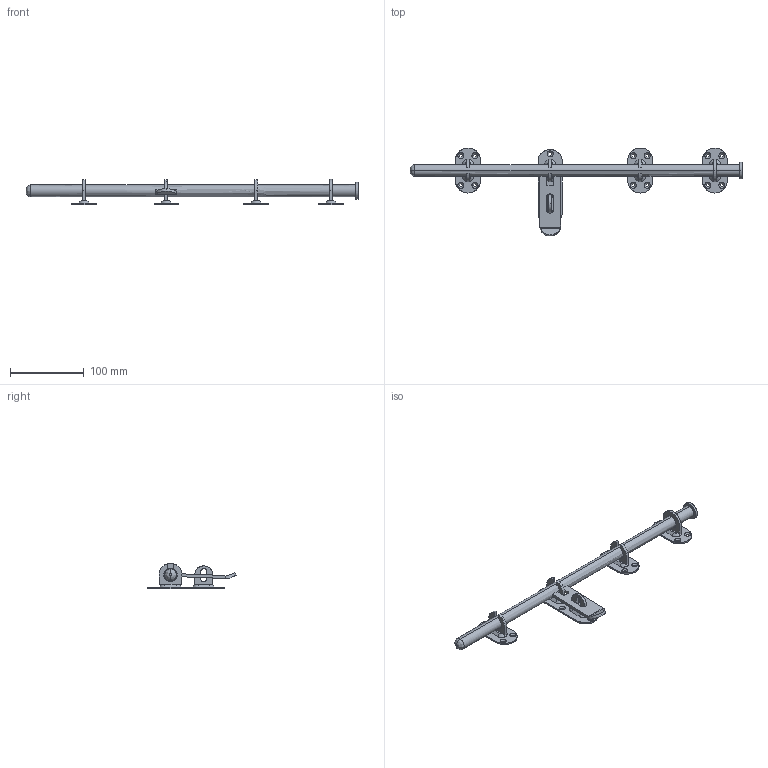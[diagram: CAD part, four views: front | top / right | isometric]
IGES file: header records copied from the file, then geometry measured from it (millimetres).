
Start section: SolidWorks IGES FILE using analytic representation for surfaces
Global section: file name: \\Ls-wvld1d\share\シブタニ\3D設計\ラッチ錠・キャッチ\DL-136S-2\DL-136S-2.IGS; native system: SolidWorks 2003 by SolidWorks Corporation; preprocessor: Version 5.3; author: user; date: 130706.134001; units: millimetre
Bounding box: 450 x 119.3 x 34 mm (x, y, z)
Surface area: 53711.6 mm2 (no closed solid volume)
Topology: 0 solids, 0 shells, 174 faces, 3402 edges, 3402 vertices
Faces by surface type: bspline 91, revolution 83
